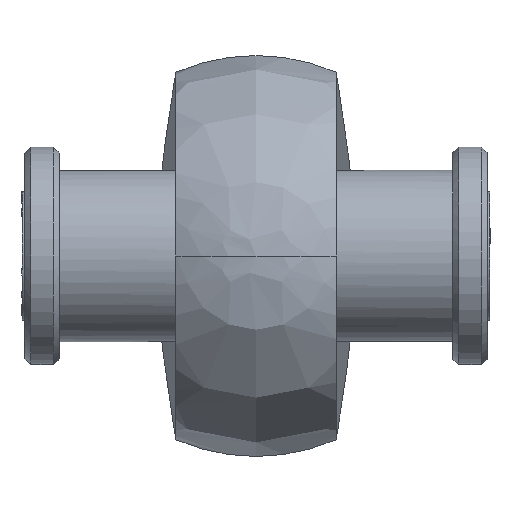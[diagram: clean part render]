
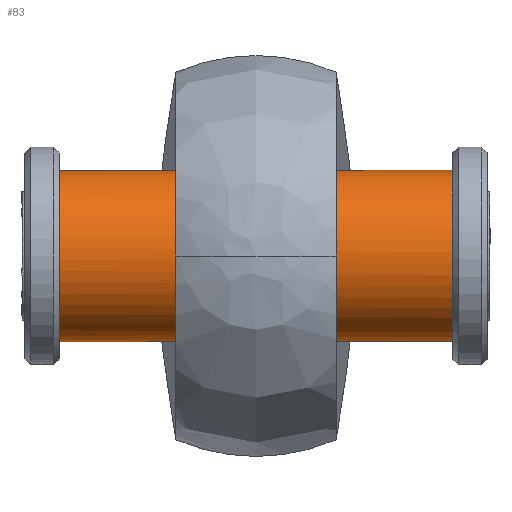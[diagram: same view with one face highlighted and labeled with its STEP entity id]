
A CAD part, left-side view. The second image highlights one B-rep face of the part: STEP entity #83.
In plain terms, the highlighted cylindrical face has radius 7.5 mm (diameter 15 mm), a full revolution.
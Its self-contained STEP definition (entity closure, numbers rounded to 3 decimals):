
#83=ADVANCED_FACE('',(#157),#1214,.T.);
#157=FACE_OUTER_BOUND('',#238,.T.);
#238=EDGE_LOOP('',(#506,#507,#508,#509));
#506=ORIENTED_EDGE('',*,*,#774,.T.);
#507=ORIENTED_EDGE('',*,*,#776,.T.);
#508=ORIENTED_EDGE('',*,*,#775,.T.);
#509=ORIENTED_EDGE('',*,*,#776,.F.);
#774=EDGE_CURVE('',#1128,#1128,#983,.T.);
#775=EDGE_CURVE('',#1129,#1129,#984,.T.);
#776=EDGE_CURVE('',#1128,#1129,#897,.T.);
#897=B_SPLINE_CURVE_WITH_KNOTS('',1,(#2248,#2249),.UNSPECIFIED.,.F.,.F.,
(2,2),(3.556,37.918),.UNSPECIFIED.);
#983=(
BOUNDED_CURVE()
B_SPLINE_CURVE(2,(#2230,#2231,#2232,#2233,#2234,#2235,#2236,#2237,#2238),
 .UNSPECIFIED.,.T.,.F.)
B_SPLINE_CURVE_WITH_KNOTS((3,2,2,2,3),(0.,11.781,23.562,
35.343,47.124),.UNSPECIFIED.)
CURVE()
GEOMETRIC_REPRESENTATION_ITEM()
RATIONAL_B_SPLINE_CURVE((1.,0.707,1.,0.707,1.,0.707,
1.,0.707,1.))
REPRESENTATION_ITEM('')
);
#984=(
BOUNDED_CURVE()
B_SPLINE_CURVE(2,(#2239,#2240,#2241,#2242,#2243,#2244,#2245,#2246,#2247),
 .UNSPECIFIED.,.T.,.F.)
B_SPLINE_CURVE_WITH_KNOTS((3,2,2,2,3),(0.,11.781,23.562,
35.343,47.124),.UNSPECIFIED.)
CURVE()
GEOMETRIC_REPRESENTATION_ITEM()
RATIONAL_B_SPLINE_CURVE((1.,0.707,1.,0.707,1.,0.707,
1.,0.707,1.))
REPRESENTATION_ITEM('')
);
#1128=VERTEX_POINT('',#2182);
#1129=VERTEX_POINT('',#2183);
#1214=CYLINDRICAL_SURFACE('',#1366,7.5);
#1366=AXIS2_PLACEMENT_3D('',#2172,#1412,$);
#1412=DIRECTION('',(0.,-1.,0.));
#2172=CARTESIAN_POINT('',(0.,0.,0.));
#2182=CARTESIAN_POINT('',(7.5,17.181,0.));
#2183=CARTESIAN_POINT('',(7.5,-17.181,0.));
#2230=CARTESIAN_POINT('',(7.5,17.181,0.));
#2231=CARTESIAN_POINT('',(7.5,17.181,7.5));
#2232=CARTESIAN_POINT('',(0.,17.181,7.5));
#2233=CARTESIAN_POINT('',(-7.5,17.181,7.5));
#2234=CARTESIAN_POINT('',(-7.5,17.181,0.));
#2235=CARTESIAN_POINT('',(-7.5,17.181,-7.5));
#2236=CARTESIAN_POINT('',(0.,17.181,-7.5));
#2237=CARTESIAN_POINT('',(7.5,17.181,-7.5));
#2238=CARTESIAN_POINT('',(7.5,17.181,0.));
#2239=CARTESIAN_POINT('',(7.5,-17.181,0.));
#2240=CARTESIAN_POINT('',(7.5,-17.181,-7.5));
#2241=CARTESIAN_POINT('',(0.,-17.181,-7.5));
#2242=CARTESIAN_POINT('',(-7.5,-17.181,-7.5));
#2243=CARTESIAN_POINT('',(-7.5,-17.181,0.));
#2244=CARTESIAN_POINT('',(-7.5,-17.181,7.5));
#2245=CARTESIAN_POINT('',(0.,-17.181,7.5));
#2246=CARTESIAN_POINT('',(7.5,-17.181,7.5));
#2247=CARTESIAN_POINT('',(7.5,-17.181,0.));
#2248=CARTESIAN_POINT('',(7.5,17.181,0.));
#2249=CARTESIAN_POINT('',(7.5,-17.181,0.));
